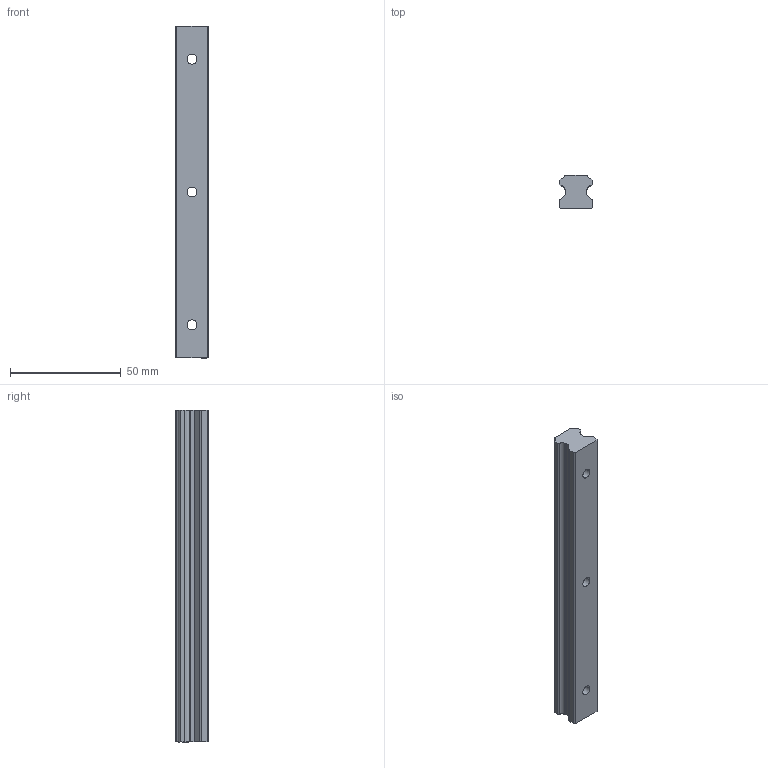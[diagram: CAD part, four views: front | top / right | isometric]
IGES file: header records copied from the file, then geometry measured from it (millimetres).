
Start section: SolidWorks IGES file using analytic representation for surfaces
Global section: file name: C:\Documents and Settings\Àäìèíèñòðàòîð\Ìîè äîêóìåíòû\Google Äèñê\darxton\doc\3d\final\profile-guideway\HGR15R.IGS; native system: SolidWorks 2012; preprocessor: SolidWorks 2012; author: Àäìèíèñòðàòîð; date: 130318.104950; units: millimetre
Bounding box: 15 x 15 x 150 mm (x, y, z)
Volume: 27398.4 mm3; surface area: 10667.2 mm2
Topology: 1 solids, 1 shells, 51 faces, 140 edges, 92 vertices
Faces by surface type: revolution 26, plane 25
